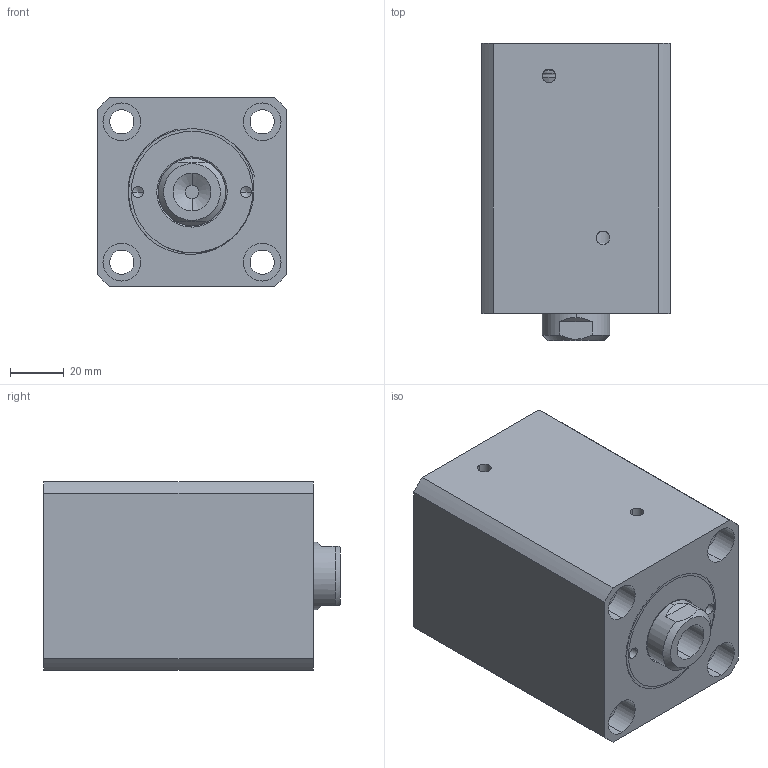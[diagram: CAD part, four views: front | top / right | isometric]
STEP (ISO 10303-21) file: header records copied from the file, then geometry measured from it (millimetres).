
FILE_DESCRIPTION (( 'STEP AP214' ), '1' );
FILE_NAME ('chtb-sdmb40x45n_asm.STEP', '2018-06-07T02:23:01', ( 'Windows' ), ( 'Microsoft' ), 'SwSTEP 2.0', 'SolidWorks 2015', '' );
FILE_SCHEMA (( 'AUTOMOTIVE_DESIGN' ));
Length unit declared in the file: millimetre
Products named in the file (4): CHTB-SD40QG; CHTB-SDMB40X45NBT; CHTB-SD40X45NHSG; chtb-sdmb40x45n_asm
Assembly tree (3 placements, depth 2):
  chtb-sdmb40x45n_asm
    CHTB-SD40X45NHSG
    CHTB-SDMB40X45NBT
    CHTB-SD40QG
Bounding box: 70 x 110 x 70 mm (x, y, z)
Volume: 412601.5 mm3; surface area: 86454.9 mm2
Topology: 3 solids, 3 shells, 155 faces, 407 edges, 270 vertices
Faces by surface type: cylinder 84, plane 34, torus 14, bspline 14, cone 9
Entity records: 10007 total; most frequent: CARTESIAN_POINT 6085, ORIENTED_EDGE 802, DIRECTION 758, EDGE_CURVE 401, AXIS2_PLACEMENT_3D 322, VERTEX_POINT 270, EDGE_LOOP 191, CIRCLE 175
